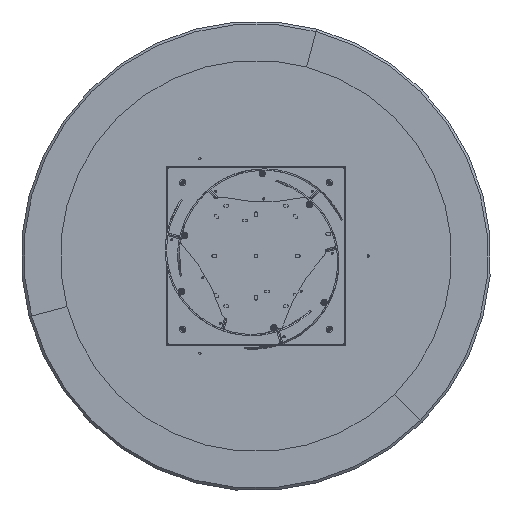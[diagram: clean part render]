
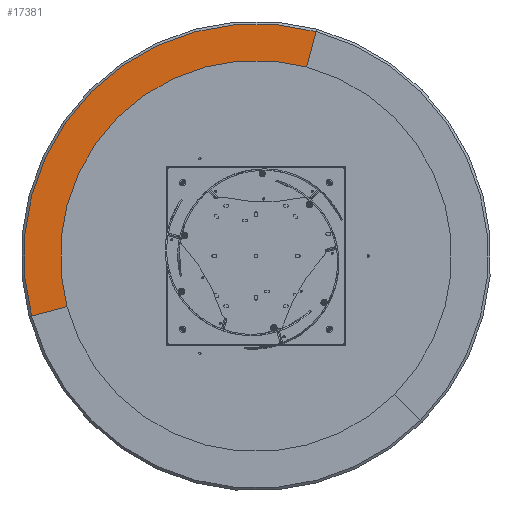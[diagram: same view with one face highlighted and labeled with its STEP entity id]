
A CAD part, front view. The second image highlights one B-rep face of the part: STEP entity #17381.
In plain terms, the highlighted planar face has unit normal (0, -1, 0).
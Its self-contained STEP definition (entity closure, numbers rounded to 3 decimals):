
#163 = AXIS2_PLACEMENT_3D ( 'NONE', #17092, #8570, #15416 ) ;
#906 = EDGE_CURVE ( 'NONE', #5034, #7992, #8799, .T. ) ;
#1213 = VERTEX_POINT ( 'NONE', #7378 ) ;
#1423 = EDGE_CURVE ( 'NONE', #3776, #17376, #4326, .T. ) ;
#1450 = EDGE_CURVE ( 'NONE', #17376, #3776, #8983, .T. ) ;
#1548 = ORIENTED_EDGE ( 'NONE', *, *, #1450, .F. ) ;
#1751 = DIRECTION ( 'NONE',  ( 0., -1., 0. ) ) ;
#2402 = CARTESIAN_POINT ( 'NONE',  ( 0., 0., 0. ) ) ;
#2806 = DIRECTION ( 'NONE',  ( 0., 0., -1. ) ) ;
#3205 = DIRECTION ( 'NONE',  ( 0., 0., -1. ) ) ;
#3537 = CARTESIAN_POINT ( 'NONE',  ( -399.884, 0., 300.155 ) ) ;
#3776 = VERTEX_POINT ( 'NONE', #8404 ) ;
#4326 = CIRCLE ( 'NONE', #6108, 3.3 ) ;
#4458 = DIRECTION ( 'NONE',  ( 0.866, 0., -0.5 ) ) ;
#4541 = CARTESIAN_POINT ( 'NONE',  ( -399.884, 0., 296.855 ) ) ;
#4621 = VECTOR ( 'NONE', #5868, 1000. ) ;
#5034 = VERTEX_POINT ( 'NONE', #14269 ) ;
#5058 = ORIENTED_EDGE ( 'NONE', *, *, #9618, .T. ) ;
#5136 = EDGE_LOOP ( 'NONE', ( #20473, #18854 ) ) ;
#5514 = EDGE_LOOP ( 'NONE', ( #1548, #18485 ) ) ;
#5868 = DIRECTION ( 'NONE',  ( -0.866, 0., -0.5 ) ) ;
#5919 = CARTESIAN_POINT ( 'NONE',  ( 399.884, 0., 300.155 ) ) ;
#6108 = AXIS2_PLACEMENT_3D ( 'NONE', #16758, #19696, #17908 ) ;
#6509 = VECTOR ( 'NONE', #4458, 1000. ) ;
#6888 = DIRECTION ( 'NONE',  ( 0., 0., -1. ) ) ;
#7176 = DIRECTION ( 'NONE',  ( 0., 0., -1. ) ) ;
#7378 = CARTESIAN_POINT ( 'NONE',  ( 0., 0., 890. ) ) ;
#7701 = CARTESIAN_POINT ( 'NONE',  ( 0., 0., 0. ) ) ;
#7733 = CARTESIAN_POINT ( 'NONE',  ( -399.884, 0., 300.155 ) ) ;
#7992 = VERTEX_POINT ( 'NONE', #4541 ) ;
#8259 = FACE_OUTER_BOUND ( 'NONE', #13799, .T. ) ;
#8364 = FACE_BOUND ( 'NONE', #5136, .T. ) ;
#8404 = CARTESIAN_POINT ( 'NONE',  ( 399.884, 0., 303.455 ) ) ;
#8570 = DIRECTION ( 'NONE',  ( 0., -1., 0. ) ) ;
#8799 = CIRCLE ( 'NONE', #14263, 3.3 ) ;
#8983 = CIRCLE ( 'NONE', #21501, 3.3 ) ;
#9412 = DIRECTION ( 'NONE',  ( 0., -1., 0. ) ) ;
#9480 = EDGE_CURVE ( 'NONE', #7992, #5034, #18040, .T. ) ;
#9618 = EDGE_CURVE ( 'NONE', #10105, #1213, #16255, .T. ) ;
#10105 = VERTEX_POINT ( 'NONE', #20534 ) ;
#11481 = EDGE_CURVE ( 'NONE', #1213, #16569, #15906, .T. ) ;
#11950 = DIRECTION ( 'NONE',  ( 0., 0., -1. ) ) ;
#12232 = CARTESIAN_POINT ( 'NONE',  ( 0., 0., 0. ) ) ;
#13313 = LINE ( 'NONE', #7701, #6509 ) ;
#13367 = AXIS2_PLACEMENT_3D ( 'NONE', #20458, #1751, #11950 ) ;
#13799 = EDGE_LOOP ( 'NONE', ( #5058, #16787, #14806, #18054 ) ) ;
#14263 = AXIS2_PLACEMENT_3D ( 'NONE', #7733, #9412, #2806 ) ;
#14269 = CARTESIAN_POINT ( 'NONE',  ( -399.884, 0., 303.455 ) ) ;
#14434 = CARTESIAN_POINT ( 'NONE',  ( 0., 0., 0. ) ) ;
#14806 = ORIENTED_EDGE ( 'NONE', *, *, #15780, .T. ) ;
#15088 = DIRECTION ( 'NONE',  ( 0., -1., 0. ) ) ;
#15184 = AXIS2_PLACEMENT_3D ( 'NONE', #12232, #19058, #7176 ) ;
#15294 = DIRECTION ( 'NONE',  ( 0., -1., 0. ) ) ;
#15309 = FACE_BOUND ( 'NONE', #5514, .T. ) ;
#15416 = DIRECTION ( 'NONE',  ( 0., 0., -1. ) ) ;
#15780 = EDGE_CURVE ( 'NONE', #16569, #18446, #13313, .T. ) ;
#15906 = CIRCLE ( 'NONE', #15184, 890. ) ;
#16255 = CIRCLE ( 'NONE', #163, 890. ) ;
#16569 = VERTEX_POINT ( 'NONE', #19507 ) ;
#16758 = CARTESIAN_POINT ( 'NONE',  ( 399.884, 0., 300.155 ) ) ;
#16787 = ORIENTED_EDGE ( 'NONE', *, *, #11481, .T. ) ;
#17092 = CARTESIAN_POINT ( 'NONE',  ( 0., 0., 0. ) ) ;
#17101 = PLANE ( 'NONE',  #13367 ) ;
#17327 = AXIS2_PLACEMENT_3D ( 'NONE', #3537, #15088, #6888 ) ;
#17376 = VERTEX_POINT ( 'NONE', #18673 ) ;
#17381 = ADVANCED_FACE ( 'NONE', ( #8364, #15309, #8259 ), #17101, .T. ) ;
#17908 = DIRECTION ( 'NONE',  ( 0., 0., -1. ) ) ;
#18040 = CIRCLE ( 'NONE', #17327, 3.3 ) ;
#18054 = ORIENTED_EDGE ( 'NONE', *, *, #19260, .F. ) ;
#18187 = LINE ( 'NONE', #2402, #4621 ) ;
#18446 = VERTEX_POINT ( 'NONE', #14434 ) ;
#18485 = ORIENTED_EDGE ( 'NONE', *, *, #1423, .F. ) ;
#18673 = CARTESIAN_POINT ( 'NONE',  ( 399.884, 0., 296.855 ) ) ;
#18854 = ORIENTED_EDGE ( 'NONE', *, *, #906, .F. ) ;
#19058 = DIRECTION ( 'NONE',  ( 0., -1., 0. ) ) ;
#19260 = EDGE_CURVE ( 'NONE', #10105, #18446, #18187, .T. ) ;
#19507 = CARTESIAN_POINT ( 'NONE',  ( -770.763, 0., 445. ) ) ;
#19696 = DIRECTION ( 'NONE',  ( 0., -1., 0. ) ) ;
#20458 = CARTESIAN_POINT ( 'NONE',  ( 0., 0., 0. ) ) ;
#20473 = ORIENTED_EDGE ( 'NONE', *, *, #9480, .F. ) ;
#20534 = CARTESIAN_POINT ( 'NONE',  ( 770.763, 0., 445. ) ) ;
#21501 = AXIS2_PLACEMENT_3D ( 'NONE', #5919, #15294, #3205 ) ;
